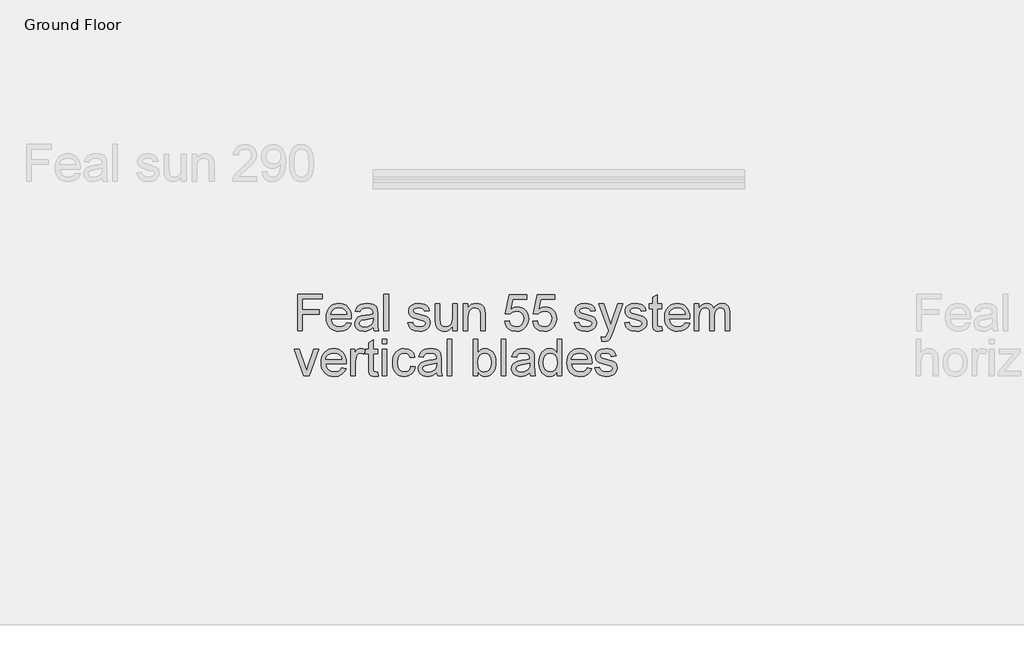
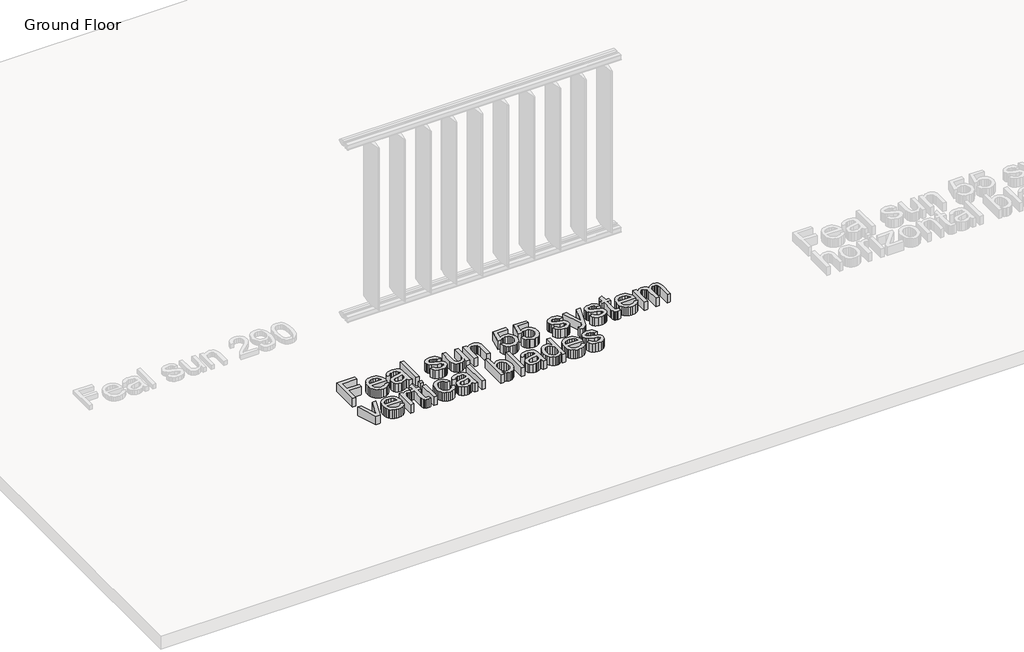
# One storey, part 2 of 3: 1 proxy.
"""IFC4 building model written with IfcOpenShell, lengths in millimetres."""

import ifcopenshell
import ifcopenshell.guid

model = None  # the IFC model being written
_history = None  # IfcOwnerHistory: only IFC2X3 demands one
_inside = {}  # id of a spatial element -> (the spatial element, [elements in it])
_under = {}  # id of a project, library or spatial element -> (it, [spatial elements below it])
_declared = {}  # id of a project -> (the project, [libraries it declares])
_typed = {}  # id of a type object -> (the type object, [elements of that type])
_made_of = {}  # id of a material, layer set ... -> (it, [elements and type objects made of it])


def new_model(schema):
    """Start an empty IFC model of exactly this schema.

    Asked for "IFC4X3", IfcOpenShell would pick the latest addendum, in which some entities
    have other attributes; the version numbers below select the first issue.
    IFC2X3 requires an IfcOwnerHistory on every rooted entity: one is made here for all.
    """
    global model, _history
    if schema == "IFC4X3":
        model = ifcopenshell.file(schema_version=(4, 3, 0, 0))
    else:
        model = ifcopenshell.file(schema=schema)
    _inside.clear()
    _under.clear()
    _declared.clear()
    _typed.clear()
    _made_of.clear()
    _history = None
    if model.schema == "IFC2X3":
        org = make("IfcOrganization", Name="unknown")
        user = make(
            "IfcPersonAndOrganization",
            ThePerson=make("IfcPerson", FamilyName="unknown"),
            TheOrganization=org,
        )
        app = make(
            "IfcApplication",
            ApplicationDeveloper=org,
            Version="unknown",
            ApplicationFullName="unknown",
            ApplicationIdentifier="unknown",
        )
        _history = make(
            "IfcOwnerHistory",
            OwningUser=user,
            OwningApplication=app,
            ChangeAction="ADDED",
            CreationDate=0,
        )
    return model


def make(cls, **values):
    """One entity of the class cls with the attributes given. An attribute that is None is left unset."""
    return model.create_entity(
        cls, **{name: value for name, value in values.items() if value is not None}
    )


def rooted(cls, **values):
    """An entity with a GlobalId (a new one), such as an element, a storey or a relation."""
    return make(cls, GlobalId=ifcopenshell.guid.new(), OwnerHistory=_history, **values)


def si_unit(unit_type, name, prefix=None):
    """IfcSIUnit, for example si_unit("LENGTHUNIT", "METRE", prefix="MILLI")."""
    return make("IfcSIUnit", UnitType=unit_type, Prefix=prefix, Name=name)


def assignment(units):
    """IfcUnitAssignment: the units of a project."""
    return None if units is None else make("IfcUnitAssignment", Units=units)


def point(xyz):
    """IfcCartesianPoint."""
    return None if xyz is None else make("IfcCartesianPoint", Coordinates=xyz)


def direction(xyz):
    """IfcDirection."""
    return None if xyz is None else make("IfcDirection", DirectionRatios=xyz)


def frame(location, z_axis=None, x_axis=None):
    """IfcAxis2Placement3D, a coordinate frame: its origin and axes. An axis left out is left unset."""
    return make(
        "IfcAxis2Placement3D",
        Location=point(location),
        Axis=direction(z_axis),
        RefDirection=direction(x_axis),
    )


def origin():
    """The frame at (0, 0, 0) with its axes left unset."""
    return frame((0.0, 0.0, 0.0))


def origin_with_axes():
    """The frame at (0, 0, 0) with the z axis (0, 0, 1) and the x axis (1, 0, 0) written out."""
    return frame((0.0, 0.0, 0.0), z_axis=(0.0, 0.0, 1.0), x_axis=(1.0, 0.0, 0.0))


def place(relative_to, where):
    """IfcLocalPlacement: puts the frame where relative to a parent placement (None: the world)."""
    return make(
        "IfcLocalPlacement", PlacementRelTo=relative_to, RelativePlacement=where
    )


def context(
    kind, dimensions, precision=None, world=None, true_north=None, identifier=None
):
    """IfcGeometricRepresentationContext, for example the 3D "Model" context."""
    return make(
        "IfcGeometricRepresentationContext",
        ContextIdentifier=identifier,
        ContextType=kind,
        CoordinateSpaceDimension=dimensions,
        Precision=precision,
        WorldCoordinateSystem=world,
        TrueNorth=true_north,
    )


def project(units=None, contexts=None):
    """IfcProject with its units and contexts."""
    return rooted(
        "IfcProject",
        Name="project",
        RepresentationContexts=contexts,
        UnitsInContext=assignment(units),
    )


def spatial(cls, under=None, at=None, **own):
    """A site, building, storey or space (cls), placed at a placement, below another one or the project."""
    s = rooted(cls, ObjectPlacement=at, **own)
    if under is not None:
        _under.setdefault(under.id(), (under, []))[1].append(s)
    return s


def polyline(points):
    """IfcPolyline through the points."""
    return make("IfcPolyline", Points=[point(p) for p in points])


def outline(outer, holes=None, kind="AREA"):
    """IfcArbitraryClosedProfileDef: a profile drawn as a closed curve; with holes, ...WithVoids."""
    if holes is None:
        return make("IfcArbitraryClosedProfileDef", ProfileType=kind, OuterCurve=outer)
    return make(
        "IfcArbitraryProfileDefWithVoids",
        ProfileType=kind,
        OuterCurve=outer,
        InnerCurves=holes,
    )


def extrude(swept, where, along, depth):
    """IfcExtrudedAreaSolid: the profile swept, set in the frame where, extruded along a direction by depth."""
    return make(
        "IfcExtrudedAreaSolid",
        SweptArea=swept,
        Position=where,
        ExtrudedDirection=direction(along),
        Depth=depth,
    )


def shape(context_of_items, identifier, shape_type, items):
    """IfcShapeRepresentation: the items that make up one representation, for example the "Body"."""
    return make(
        "IfcShapeRepresentation",
        ContextOfItems=context_of_items,
        RepresentationIdentifier=identifier,
        RepresentationType=shape_type,
        Items=items,
    )


def made_of(thing, what):
    """Note that an element or type object is made of a material, layer set ...; save() writes the relation."""
    if what is not None:
        _made_of.setdefault(what.id(), (what, []))[1].append(thing)
    return thing


def element(
    cls,
    number,
    at=None,
    inside=None,
    cuts=None,
    type_object=None,
    material=None,
    context=None,
    identifier="Body",
    shape_type=None,
    held_by="IfcProductDefinitionShape",
    body=None,
    shapes=None,
    **own,
):
    """One element of the class cls, such as IfcWall. Its Tag is "e" and its number.

    at: its placement. inside: the storey or other place that contains it. cuts: it is an
    opening in that element (IfcRelVoidsElement). A single representation is given by context,
    identifier, shape_type and body (its items); several are given by shapes. held_by: the class
    of the entity that holds the representations. save() writes the other relations.
    """
    e = rooted(cls, Tag="e%d" % number, ObjectPlacement=at, **own)
    if body is not None:
        shapes = [shape(context, identifier, shape_type, body)]
    if shapes is not None:
        e.Representation = make(held_by, Representations=shapes)
    if inside is not None:
        _inside.setdefault(inside.id(), (inside, []))[1].append(e)
    if cuts is not None:
        rooted(
            "IfcRelVoidsElement", RelatingBuildingElement=cuts, RelatedOpeningElement=e
        )
    if type_object is not None:
        _typed.setdefault(type_object.id(), (type_object, []))[1].append(e)
    return made_of(e, material)


def aggregate(whole, parts):
    """IfcRelAggregates: a whole, such as a stair, and the parts it consists of."""
    return rooted("IfcRelAggregates", RelatingObject=whole, RelatedObjects=parts)


def save(model, path):
    """Write the relations noted so far, then the file.

    IfcRelAggregates (storeys below a building ...), IfcRelContainedInSpatialStructure (elements
    in a storey), IfcRelDefinesByType, IfcRelAssociatesMaterial and IfcRelDeclares: one each for
    every whole, place, type object, material and project.
    """
    for whole, parts in _under.values():
        aggregate(whole, parts)
    for where, things in _inside.values():
        rooted(
            "IfcRelContainedInSpatialStructure",
            RelatedElements=things,
            RelatingStructure=where,
        )
    for kind, things in _typed.values():
        rooted("IfcRelDefinesByType", RelatedObjects=things, RelatingType=kind)
    for what, things in _made_of.values():
        rooted("IfcRelAssociatesMaterial", RelatedObjects=things, RelatingMaterial=what)
    for by, libraries in _declared.values():
        rooted("IfcRelDeclares", RelatingContext=by, RelatedDefinitions=libraries)
    model.write(path)


model = new_model("IFC4")

# Units and contexts
model_context = context("Model", 3, world=origin())
ifc_project = project(units=[si_unit("LENGTHUNIT", "METRE", prefix="MILLI")], contexts=[model_context])

# Site, building, storey
site = spatial("IfcSite", under=ifc_project)
building = spatial("IfcBuilding", under=site)
storey = spatial("IfcBuildingStorey", under=building, Name="Ground Floor", Elevation=0.0)

# Proxy
placement = place(None, origin())
element("IfcBuildingElementProxy", 1, Name="600mm Arial", ObjectType="600mm Arial", at=placement, inside=storey, context=model_context, shape_type="SweptSolid", body=[
    extrude(outline(polyline([(199.9729816, -8768.2185597), (199.9729816, -8472.8339444), (398.43452, -8472.8339444), (398.43452, -8509.7570213), (236.8960585, -8509.7570213), (236.8960585, -8597.449329), (375.357597, -8597.449329), (375.357597, -8634.3724059), (236.8960585, -8634.3724059), (236.8960585, -8768.2185597), (199.9729816, -8768.2185597)])), origin_with_axes(), (0.0, 0.0, 1.0), 100.0),
    extrude(outline(polyline([(596.4633662, -8703.6031751), (632.6652893, -8708.2185597), (619.6214191, -8735.496204), (598.8071162, -8755.886829), (570.6911306, -8768.5971655), (535.7422123, -8772.8339444), (512.8320561, -8771.0062701), (492.418895, -8765.5232472), (474.5027292, -8756.3848759), (459.0835585, -8743.5911559), (446.6842196, -8727.4981571), (437.8275489, -8708.4619492), (432.5135465, -8686.4825321), (430.7422123, -8661.5599059), (432.5315753, -8635.7921775), (437.8996643, -8613.0803386), (446.8464792, -8593.4243891), (459.37202, -8576.824329), (474.7506258, -8563.636228), (492.2566354, -8554.2161559), (511.8900489, -8548.5641126), (533.6508662, -8546.6800982), (554.7108121, -8548.5596054), (573.7560345, -8554.1981271), (590.7865333, -8563.5956631), (605.8023085, -8576.7522136), (618.0596703, -8593.316216), (626.8149287, -8612.9361078), (632.0680837, -8635.6118891), (633.8191354, -8661.3435597), (633.6027893, -8671.2954828), (467.6652893, -8671.2954828), (474.0565152, -8698.933704), (488.90327, -8719.2522136), (510.3305537, -8731.746204), (536.4633662, -8735.9108674), (556.1148085, -8733.9817809), (572.6652893, -8728.1945213), (586.1148085, -8718.1885117), (596.4633662, -8703.6031751)]), holes=[polyline([(467.6652893, -8634.3724059), (596.8960585, -8634.3724059), (591.9020681, -8614.8651944), (582.1124047, -8600.9108674), (560.5859623, -8587.9300982), (533.5066354, -8583.6031751), (508.6178133, -8587.0556992), (488.0378854, -8597.4132713), (473.731996, -8613.558103), (467.6652893, -8634.3724059)])]), origin_with_axes(), (0.0, 0.0, 1.0), 100.0),
    extrude(outline(polyline([(809.2037508, -8740.5262521), (791.5625248, -8755.652454), (773.3984623, -8765.5502905), (754.2968998, -8771.0130309), (733.8431739, -8772.8339444), (702.9868037, -8768.4529347), (680.2253854, -8755.3099059), (666.1899287, -8735.3519732), (661.5114431, -8710.5262521), (663.27827, -8695.2197617), (668.5787508, -8681.3195213), (676.7548325, -8669.4204828), (687.1484623, -8660.1175982), (713.0018277, -8648.0022136), (744.9489431, -8642.449329), (782.701347, -8636.6079828), (808.9874047, -8629.7570213), (809.2037508, -8621.5358674), (806.6616835, -8605.0575021), (799.0354816, -8594.2762521), (781.9801931, -8586.2714444), (758.2181739, -8583.6031751), (736.2229816, -8585.3790165), (720.8624047, -8590.7065405), (710.387645, -8600.5593049), (703.0499047, -8615.9108674), (666.1268277, -8611.2954828), (672.5360825, -8591.1031751), (682.1003854, -8575.2377905), (695.7121643, -8563.1043771), (714.263847, -8554.1079828), (736.9531498, -8548.5370694), (762.9777893, -8546.6800982), (787.9387268, -8548.3207232), (807.7253854, -8553.2425982), (822.6442556, -8560.6434396), (833.0018277, -8569.7209636), (839.8708181, -8580.9439203), (844.3239431, -8594.7810597), (846.1268277, -8627.0887521), (846.1268277, -8673.0262521), (848.0018277, -8737.1728867), (855.357597, -8768.2185597), (818.43452, -8768.2185597), (809.2037508, -8740.5262521)]), holes=[polyline([(809.2037508, -8666.6800982), (749.6364431, -8678.0022136), (717.8696162, -8683.9877905), (703.482597, -8693.7233674), (698.43452, -8707.9300982), (701.1839191, -8718.9096655), (709.4321162, -8727.9060597), (722.9988229, -8733.9096655), (741.7037508, -8735.9108674), (761.5354816, -8733.7023338), (779.05952, -8727.0767328), (793.2662508, -8717.3141126), (803.1460585, -8705.6945213), (807.5270681, -8693.7233674), (808.9874047, -8677.136829), (809.2037508, -8666.6800982)])]), origin_with_axes(), (0.0, 0.0, 1.0), 100.0),
    extrude(outline(polyline([(896.8960585, -8768.2185597), (896.8960585, -8472.8339444), (933.8191354, -8472.8339444), (933.8191354, -8768.2185597), (896.8960585, -8768.2185597)])), origin_with_axes(), (0.0, 0.0, 1.0), 100.0),
    extrude(outline(polyline([(1090.7422123, -8703.6031751), (1127.6652893, -8698.9877905), (1133.4886066, -8714.7810597), (1144.7566354, -8726.3916367), (1161.5414912, -8733.5310597), (1183.9152893, -8735.9108674), (1206.0186547, -8733.7293771), (1221.55952, -8727.1849059), (1230.7542316, -8717.7017328), (1233.8191354, -8706.7041367), (1230.7362027, -8697.293079), (1221.4874047, -8690.1175982), (1183.482597, -8679.5887521), (1127.8816354, -8661.5238482), (1113.810121, -8652.4463242), (1103.6148085, -8640.4300982), (1097.4218998, -8626.2413963), (1095.357597, -8610.6464444), (1097.0162508, -8596.3405549), (1101.9922123, -8583.1344251), (1109.8347604, -8571.5508915), (1120.0931739, -8562.1127905), (1143.5667316, -8551.1873097), (1175.3335585, -8546.6800982), (1199.3660104, -8548.4919972), (1220.2614431, -8553.9276944), (1237.0643277, -8562.4553386), (1248.8191354, -8573.543079), (1256.607597, -8588.011228), (1261.5114431, -8606.6800982), (1224.5883662, -8611.2954828), (1219.9279095, -8599.6758915), (1210.7061547, -8590.9228867), (1196.8329575, -8585.433103), (1178.2181739, -8583.6031751), (1157.0162508, -8585.3519732), (1142.8816354, -8590.5983674), (1134.9309143, -8598.1704828), (1132.2806739, -8606.8964444), (1136.6797123, -8617.6416367), (1150.4537508, -8625.7906751), (1182.2566354, -8633.6512521), (1236.451347, -8651.0310597), (1250.7662508, -8659.3423578), (1261.6196162, -8670.7185597), (1268.4615633, -8685.1957232), (1270.7422123, -8702.8099059), (1268.0649287, -8721.0190405), (1260.0330777, -8738.1464444), (1246.9531498, -8752.8489684), (1229.1316354, -8763.7834636), (1207.6051931, -8770.5713242), (1183.4104816, -8772.8339444), (1146.1809143, -8768.4709636), (1119.0114431, -8755.3820213), (1100.8744239, -8733.7113482), (1090.7422123, -8703.6031751)])), origin_with_axes(), (0.0, 0.0, 1.0), 100.0),
    extrude(outline(polyline([(1450.7422123, -8768.2185597), (1450.7422123, -8730.9349059), (1437.3828373, -8749.2657352), (1421.8239431, -8762.3591847), (1404.0655297, -8770.2152545), (1384.107597, -8772.8339444), (1366.1238229, -8770.9950021), (1349.3840393, -8765.4781751), (1335.3395681, -8757.1849059), (1325.4417316, -8747.0166367), (1314.4441354, -8719.8291367), (1312.2806739, -8685.5022136), (1312.2806739, -8551.2954828), (1349.2037508, -8551.2954828), (1349.2037508, -8668.1224059), (1351.4393277, -8705.7666367), (1356.8209383, -8718.323728), (1366.0426931, -8727.8700021), (1378.4916114, -8733.9006511), (1393.5547123, -8735.9108674), (1409.4831979, -8733.855579), (1424.3840393, -8727.6897136), (1436.6706979, -8717.9811799), (1444.7566354, -8705.2978867), (1449.2458181, -8687.9270934), (1450.7422123, -8664.1560597), (1450.7422123, -8551.2954828), (1487.6652893, -8551.2954828), (1487.6652893, -8768.2185597), (1450.7422123, -8768.2185597)])), origin_with_axes(), (0.0, 0.0, 1.0), 100.0),
    extrude(outline(polyline([(1538.43452, -8768.2185597), (1538.43452, -8551.2954828), (1575.357597, -8551.2954828), (1575.357597, -8581.5839444), (1588.185121, -8566.3135117), (1603.59077, -8555.4060597), (1621.5745441, -8548.8615886), (1642.1364431, -8546.6800982), (1660.3365633, -8548.4379107), (1677.0042316, -8553.7113482), (1690.904472, -8561.8423578), (1700.8023085, -8572.1728867), (1711.87202, -8599.324329), (1713.8191354, -8635.0214444), (1713.8191354, -8768.2185597), (1676.8960585, -8768.2185597), (1676.8960585, -8639.9974059), (1672.6412508, -8607.3291367), (1666.7548325, -8597.6025742), (1657.6051931, -8590.0575021), (1645.8774287, -8585.2167569), (1632.2566354, -8583.6031751), (1610.6310345, -8587.2269732), (1592.1965393, -8598.0983674), (1584.829502, -8606.973067), (1579.5673325, -8619.1019732), (1575.357597, -8653.1224059), (1575.357597, -8768.2185597), (1538.43452, -8768.2185597)])), origin_with_axes(), (0.0, 0.0, 1.0), 100.0),
    extrude(outline(polyline([(1870.7422123, -8689.7570213), (1907.6652893, -8685.1416367), (1914.4441354, -8707.308103), (1926.2710585, -8723.1825021), (1943.091972, -8732.7287761), (1964.8527893, -8735.9108674), (1991.3191354, -8731.4847857), (2011.1508662, -8718.2065405), (2023.5366835, -8697.6085838), (2027.6652893, -8671.2233674), (2023.7981018, -8646.3796174), (2012.1965393, -8627.3772136), (1992.7704575, -8615.3159155), (1965.4297123, -8611.2954828), (1947.5180537, -8612.9000501), (1933.013847, -8617.7137521), (1912.2806739, -8634.3724059), (1875.357597, -8629.7570213), (1907.6652893, -8477.449329), (2050.7422123, -8477.449329), (2050.7422123, -8514.3724059), (1937.5210585, -8514.3724059), (1921.7277893, -8595.7185597), (1948.1039912, -8579.7089444), (1975.7422123, -8574.3724059), (1993.7237328, -8576.0265525), (2010.2404095, -8580.9889924), (2025.2922424, -8589.2597256), (2038.8792316, -8600.8387521), (2050.126978, -8615.0184396), (2058.1610825, -8631.0911559), (2062.9815453, -8649.0569011), (2064.5883662, -8668.9156751), (2058.8011066, -8705.8387521), (2051.5670321, -8722.2990886), (2041.4393277, -8737.4252905), (2026.0967797, -8752.9165766), (2008.1941354, -8763.9817809), (1987.731395, -8770.6209035), (1964.7085585, -8772.8339444), (1928.4435345, -8767.1458434), (1913.0761967, -8760.0357172), (1899.5523085, -8750.0815405), (1888.3000549, -8737.7791066), (1879.747621, -8723.6242088), (1870.7422123, -8689.7570213)])), origin_with_axes(), (0.0, 0.0, 1.0), 100.0),
    extrude(outline(polyline([(2096.8960585, -8689.7570213), (2133.8191354, -8685.1416367), (2140.5979816, -8707.308103), (2152.4249047, -8723.1825021), (2169.2458181, -8732.7287761), (2191.0066354, -8735.9108674), (2217.4729816, -8731.4847857), (2237.3047123, -8718.2065405), (2249.6905297, -8697.6085838), (2253.8191354, -8671.2233674), (2249.9519479, -8646.3796174), (2238.3503854, -8627.3772136), (2218.9243037, -8615.3159155), (2191.5835585, -8611.2954828), (2173.6718998, -8612.9000501), (2159.1676931, -8617.7137521), (2138.43452, -8634.3724059), (2101.5114431, -8629.7570213), (2133.8191354, -8477.449329), (2276.8960585, -8477.449329), (2276.8960585, -8514.3724059), (2163.6749047, -8514.3724059), (2147.8816354, -8595.7185597), (2174.2578373, -8579.7089444), (2201.8960585, -8574.3724059), (2219.8775789, -8576.0265525), (2236.3942556, -8580.9889924), (2251.4460886, -8589.2597256), (2265.0330777, -8600.8387521), (2276.2808241, -8615.0184396), (2284.3149287, -8631.0911559), (2289.1353914, -8649.0569011), (2290.7422123, -8668.9156751), (2284.9549527, -8705.8387521), (2277.7208782, -8722.2990886), (2267.5931739, -8737.4252905), (2252.2506258, -8752.9165766), (2234.3479816, -8763.9817809), (2213.8852412, -8770.6209035), (2190.8624047, -8772.8339444), (2154.5973806, -8767.1458434), (2139.2300429, -8760.0357172), (2125.7061547, -8750.0815405), (2114.4539011, -8737.7791066), (2105.9014672, -8723.6242088), (2096.8960585, -8689.7570213)])), origin_with_axes(), (0.0, 0.0, 1.0), 100.0),
    extrude(outline(polyline([(2433.8191354, -8703.6031751), (2470.7422123, -8698.9877905), (2476.5655297, -8714.7810597), (2487.8335585, -8726.3916367), (2504.6184143, -8733.5310597), (2526.9922123, -8735.9108674), (2549.0955777, -8733.7293771), (2564.6364431, -8727.1849059), (2573.8311547, -8717.7017328), (2576.8960585, -8706.7041367), (2573.8131258, -8697.293079), (2564.5643277, -8690.1175982), (2526.55952, -8679.5887521), (2470.9585585, -8661.5238482), (2456.8870441, -8652.4463242), (2446.6917316, -8640.4300982), (2440.4988229, -8626.2413963), (2438.43452, -8610.6464444), (2440.0931739, -8596.3405549), (2445.0691354, -8583.1344251), (2452.9116835, -8571.5508915), (2463.170097, -8562.1127905), (2486.6436547, -8551.1873097), (2518.4104816, -8546.6800982), (2542.4429335, -8548.4919972), (2563.3383662, -8553.9276944), (2580.1412508, -8562.4553386), (2591.8960585, -8573.543079), (2599.68452, -8588.011228), (2604.5883662, -8606.6800982), (2567.6652893, -8611.2954828), (2563.0048325, -8599.6758915), (2553.7830777, -8590.9228867), (2539.9098806, -8585.433103), (2521.295097, -8583.6031751), (2500.0931739, -8585.3519732), (2485.9585585, -8590.5983674), (2478.0078373, -8598.1704828), (2475.357597, -8606.8964444), (2479.7566354, -8617.6416367), (2493.5306739, -8625.7906751), (2525.3335585, -8633.6512521), (2579.52827, -8651.0310597), (2593.8431739, -8659.3423578), (2604.6965393, -8670.7185597), (2611.5384864, -8685.1957232), (2613.8191354, -8702.8099059), (2611.1418518, -8721.0190405), (2603.1100008, -8738.1464444), (2590.0300729, -8752.8489684), (2572.2085585, -8763.7834636), (2550.6821162, -8770.5713242), (2526.4874047, -8772.8339444), (2489.2578373, -8768.4709636), (2462.0883662, -8755.3820213), (2443.951347, -8733.7113482), (2433.8191354, -8703.6031751)])), origin_with_axes(), (0.0, 0.0, 1.0), 100.0),
    extrude(outline(polyline([(2655.357597, -8851.2954828), (2650.7422123, -8815.7425982), (2669.4922123, -8818.9877905), (2687.0162508, -8814.9132713), (2697.7614431, -8803.5550982), (2707.857597, -8776.3675982), (2710.7422123, -8767.4252905), (2632.2806739, -8551.2954828), (2671.2229816, -8551.2954828), (2712.8335585, -8671.7281751), (2727.3287508, -8719.9012521), (2741.8239431, -8677.3531751), (2784.5883662, -8551.2954828), (2823.2422123, -8551.2954828), (2747.7374047, -8773.4108674), (2728.12202, -8821.5839444), (2718.0799527, -8836.9625501), (2706.7037508, -8847.6175982), (2693.4886066, -8853.8375501), (2677.9297123, -8855.9108674), (2655.357597, -8851.2954828)])), origin_with_axes(), (0.0, 0.0, 1.0), 100.0),
    extrude(outline(polyline([(2839.9729816, -8703.6031751), (2876.8960585, -8698.9877905), (2882.7193758, -8714.7810597), (2893.9874047, -8726.3916367), (2910.7722604, -8733.5310597), (2933.1460585, -8735.9108674), (2955.2494239, -8733.7293771), (2970.7902893, -8727.1849059), (2979.9850008, -8717.7017328), (2983.0499047, -8706.7041367), (2979.966972, -8697.293079), (2970.7181739, -8690.1175982), (2932.7133662, -8679.5887521), (2877.1124047, -8661.5238482), (2863.0408902, -8652.4463242), (2852.8455777, -8640.4300982), (2846.6526691, -8626.2413963), (2844.5883662, -8610.6464444), (2846.24702, -8596.3405549), (2851.2229816, -8583.1344251), (2859.0655297, -8571.5508915), (2869.3239431, -8562.1127905), (2892.7975008, -8551.1873097), (2924.5643277, -8546.6800982), (2948.5967797, -8548.4919972), (2969.4922123, -8553.9276944), (2986.295097, -8562.4553386), (2998.0499047, -8573.543079), (3005.8383662, -8588.011228), (3010.7422123, -8606.6800982), (2973.8191354, -8611.2954828), (2969.1586787, -8599.6758915), (2959.9369239, -8590.9228867), (2946.0637268, -8585.433103), (2927.4489431, -8583.6031751), (2906.24702, -8585.3519732), (2892.1124047, -8590.5983674), (2884.1616835, -8598.1704828), (2881.5114431, -8606.8964444), (2885.9104816, -8617.6416367), (2899.68452, -8625.7906751), (2931.4874047, -8633.6512521), (2985.6821162, -8651.0310597), (2999.99702, -8659.3423578), (3010.8503854, -8670.7185597), (3017.6923325, -8685.1957232), (3019.9729816, -8702.8099059), (3017.2956979, -8721.0190405), (3009.263847, -8738.1464444), (2996.1839191, -8752.8489684), (2978.3624047, -8763.7834636), (2956.8359623, -8770.5713242), (2932.6412508, -8772.8339444), (2895.4116835, -8768.4709636), (2868.2422123, -8755.3820213), (2850.1051931, -8733.7113482), (2839.9729816, -8703.6031751)])), origin_with_axes(), (0.0, 0.0, 1.0), 100.0),
    extrude(outline(polyline([(3139.9729816, -8737.4252905), (3144.5883662, -8769.3002905), (3116.9681739, -8772.8339444), (3099.2458181, -8771.3014924), (3086.0306739, -8766.7041367), (3076.6917316, -8759.6188001), (3070.5979816, -8750.6224059), (3067.2446162, -8735.1716847), (3066.1268277, -8708.7233674), (3066.1268277, -8588.2185597), (3038.43452, -8588.2185597), (3038.43452, -8551.2954828), (3066.1268277, -8551.2954828), (3066.1268277, -8498.5791367), (3103.0499047, -8476.8724059), (3103.0499047, -8551.2954828), (3139.9729816, -8551.2954828), (3139.9729816, -8588.2185597), (3103.0499047, -8588.2185597), (3103.0499047, -8707.6416367), (3104.99702, -8726.6800982), (3111.3071162, -8733.4228867), (3123.8912508, -8735.9108674), (3139.9729816, -8737.4252905)])), origin_with_axes(), (0.0, 0.0, 1.0), 100.0),
    extrude(outline(polyline([(3328.7710585, -8703.6031751), (3364.9729816, -8708.2185597), (3351.9291114, -8735.496204), (3331.1148085, -8755.886829), (3302.9988229, -8768.5971655), (3268.0499047, -8772.8339444), (3245.1397484, -8771.0062701), (3224.7265873, -8765.5232472), (3206.8104215, -8756.3848759), (3191.3912508, -8743.5911559), (3178.9919119, -8727.4981571), (3170.1352412, -8708.4619492), (3164.8212388, -8686.4825321), (3163.0499047, -8661.5599059), (3164.8392676, -8635.7921775), (3170.2073566, -8613.0803386), (3179.1541715, -8593.4243891), (3191.6797123, -8576.824329), (3207.0583181, -8563.636228), (3224.5643277, -8554.2161559), (3244.1977412, -8548.5641126), (3265.9585585, -8546.6800982), (3287.0185044, -8548.5596054), (3306.0637268, -8554.1981271), (3323.0942256, -8563.5956631), (3338.1100008, -8576.7522136), (3350.3673626, -8593.316216), (3359.122621, -8612.9361078), (3364.3757761, -8635.6118891), (3366.1268277, -8661.3435597), (3365.9104816, -8671.2954828), (3199.9729816, -8671.2954828), (3206.3642075, -8698.933704), (3221.2109623, -8719.2522136), (3242.638246, -8731.746204), (3268.7710585, -8735.9108674), (3288.4225008, -8733.9817809), (3304.9729816, -8728.1945213), (3318.4225008, -8718.1885117), (3328.7710585, -8703.6031751)]), holes=[polyline([(3199.9729816, -8634.3724059), (3329.2037508, -8634.3724059), (3324.2097604, -8614.8651944), (3314.420097, -8600.9108674), (3292.8936547, -8587.9300982), (3265.8143277, -8583.6031751), (3240.9255056, -8587.0556992), (3220.3455777, -8597.4132713), (3206.0396883, -8613.558103), (3199.9729816, -8634.3724059)])]), origin_with_axes(), (0.0, 0.0, 1.0), 100.0),
    extrude(outline(polyline([(3403.0499047, -8768.2185597), (3403.0499047, -8551.2954828), (3439.9729816, -8551.2954828), (3439.9729816, -8586.9925982), (3451.0787508, -8570.5953626), (3465.357597, -8557.7498097), (3482.3227412, -8549.4475261), (3501.4874047, -8546.6800982), (3522.0222604, -8549.5016126), (3538.482597, -8557.9661559), (3550.77827, -8571.5148338), (3558.8191354, -8589.5887521), (3572.2776691, -8570.816216), (3587.6292316, -8557.4072617), (3604.8738229, -8549.3618891), (3624.0114431, -8546.6800982), (3651.7668518, -8551.1422376), (3672.2926931, -8564.5286559), (3684.9759864, -8587.1999299), (3689.2037508, -8619.5166367), (3689.2037508, -8768.2185597), (3652.2806739, -8768.2185597), (3652.2806739, -8635.3820213), (3648.8551931, -8604.5526944), (3644.0414912, -8596.0520934), (3636.451347, -8589.3724059), (3626.6887268, -8585.0454828), (3615.357597, -8583.6031751), (3595.3545922, -8587.2990886), (3579.0475008, -8598.386829), (3568.2031498, -8617.6236078), (3564.5883662, -8645.7666367), (3564.5883662, -8768.2185597), (3527.6652893, -8768.2185597), (3527.6652893, -8631.2714444), (3525.528871, -8610.3940405), (3519.1196162, -8595.5022136), (3507.8425729, -8586.5779347), (3491.1027893, -8583.6031751), (3476.8780297, -8585.5863482), (3463.7710585, -8591.5358674), (3452.9537508, -8601.3075021), (3445.5979816, -8614.7570213), (3441.3792316, -8633.4168771), (3439.9729816, -8658.8195213), (3439.9729816, -8768.2185597), (3403.0499047, -8768.2185597)])), origin_with_axes(), (0.0, 0.0, 1.0), 100.0),
    extrude(outline(polyline([(248.5787508, -9132.8339444), (172.2806739, -8915.9108674), (211.3672123, -8915.9108674), (257.5931739, -9045.8627905), (271.5114431, -9089.5647136), (285.1412508, -9048.3147136), (331.6556739, -8915.9108674), (370.7422123, -8915.9108674), (295.3816354, -9132.8339444), (248.5787508, -9132.8339444)])), origin_with_axes(), (0.0, 0.0, 1.0), 100.0),
    extrude(outline(polyline([(554.9249047, -9068.2185597), (591.1268277, -9072.8339444), (578.0829575, -9100.1115886), (557.2686547, -9120.5022136), (529.1526691, -9133.2125501), (494.2037508, -9137.449329), (471.2935946, -9135.6216547), (450.8804335, -9130.1386319), (432.9642676, -9121.0002605), (417.545097, -9108.2065405), (405.145758, -9092.1135417), (396.2890873, -9073.0773338), (390.9750849, -9051.0979167), (389.2037508, -9026.1752905), (390.9931138, -9000.4075622), (396.3612027, -8977.6957232), (405.3080176, -8958.0397737), (417.8335585, -8941.4397136), (433.2121643, -8928.2516126), (450.7181739, -8918.8315405), (470.3515873, -8913.1794972), (492.1124047, -8911.2954828), (513.1723506, -8913.17499), (532.2175729, -8918.8135117), (549.2480717, -8928.2110477), (564.263847, -8941.3675982), (576.5212087, -8957.9316006), (585.2764672, -8977.5514924), (590.5296222, -9000.2272737), (592.2806739, -9025.9589444), (592.0643277, -9035.9108674), (426.1268277, -9035.9108674), (432.5180537, -9063.5490886), (447.3648085, -9083.8675982), (468.7920922, -9096.3615886), (494.9249047, -9100.5262521), (514.576347, -9098.5971655), (531.1268277, -9092.8099059), (544.576347, -9082.8038963), (554.9249047, -9068.2185597)]), holes=[polyline([(426.1268277, -8998.9877905), (555.357597, -8998.9877905), (550.3636066, -8979.480579), (540.5739431, -8965.5262521), (519.0475008, -8952.5454828), (491.9681739, -8948.2185597), (467.0793518, -8951.6710838), (446.4994239, -8962.0286559), (432.1935345, -8978.1734876), (426.1268277, -8998.9877905)])]), origin_with_axes(), (0.0, 0.0, 1.0), 100.0),
    extrude(outline(polyline([(629.2037508, -9132.8339444), (629.2037508, -8915.9108674), (661.5114431, -8915.9108674), (661.5114431, -8948.0022136), (673.4465393, -8929.3964444), (684.4441354, -8918.4349059), (695.4777893, -8913.0803386), (707.5210585, -8911.2954828), (725.9104816, -8914.1440405), (744.5883662, -8922.6897136), (732.2566354, -8955.7906751), (719.2758662, -8950.1115886), (706.295097, -8948.2185597), (695.2704575, -8950.0394732), (685.4176931, -8955.5022136), (677.4579575, -8964.1921174), (672.1124047, -8975.6945213), (667.623222, -8996.3195213), (666.1268277, -9018.8195213), (666.1268277, -9132.8339444), (629.2037508, -9132.8339444)])), origin_with_axes(), (0.0, 0.0, 1.0), 100.0),
    extrude(outline(polyline([(846.1268277, -9102.0406751), (850.7422123, -9133.9156751), (823.12202, -9137.449329), (805.3996643, -9135.9168771), (792.18452, -9131.3195213), (782.8455777, -9124.2341847), (776.7518277, -9115.2377905), (773.3984623, -9099.7870694), (772.2806739, -9073.3387521), (772.2806739, -8952.8339444), (744.5883662, -8952.8339444), (744.5883662, -8915.9108674), (772.2806739, -8915.9108674), (772.2806739, -8863.1945213), (809.2037508, -8841.4877905), (809.2037508, -8915.9108674), (846.1268277, -8915.9108674), (846.1268277, -8952.8339444), (809.2037508, -8952.8339444), (809.2037508, -9072.2570213), (811.1508662, -9091.2954828), (817.4609623, -9098.0382713), (830.045097, -9100.5262521), (846.1268277, -9102.0406751)])), origin_with_axes(), (0.0, 0.0, 1.0), 100.0),
    extrude(outline(polyline([(883.0499047, -8874.3724059), (883.0499047, -8837.449329), (919.9729816, -8837.449329), (919.9729816, -8874.3724059), (883.0499047, -8874.3724059)])), origin_with_axes(), (0.0, 0.0, 1.0), 100.0),
    extrude(outline(polyline([(883.0499047, -9132.8339444), (883.0499047, -8915.9108674), (919.9729816, -8915.9108674), (919.9729816, -9132.8339444), (883.0499047, -9132.8339444)])), origin_with_axes(), (0.0, 0.0, 1.0), 100.0),
    extrude(outline(polyline([(1113.8191354, -9054.3724059), (1150.7422123, -9058.9877905), (1140.4477412, -9091.8273338), (1121.1027893, -9116.6440405), (1094.52827, -9132.2480069), (1062.545097, -9137.449329), (1041.8367136, -9135.6351763), (1023.2692556, -9130.1927184), (1006.8427232, -9121.1219552), (992.5571162, -9108.4228867), (980.993865, -9092.3343951), (972.7343998, -9073.0953626), (967.7787208, -9050.7057893), (966.1268277, -9025.1656751), (968.9483422, -8992.308103), (977.4128854, -8963.8315405), (991.6556739, -8940.8357472), (1011.8119239, -8924.4204828), (1035.9255056, -8914.5767328), (1062.0402893, -8911.2954828), (1093.2392075, -8915.8026944), (1118.1821162, -8929.324329), (1136.075746, -8951.1392328), (1146.1268277, -8980.5262521), (1109.2037508, -8985.1416367), (1102.5060345, -8969.0328626), (1092.076347, -8957.4853867), (1078.4916114, -8950.5352665), (1062.3287508, -8948.2185597), (1038.4675729, -8952.7798578), (1019.52827, -8966.4637521), (1007.169496, -8990.0094251), (1003.0499047, -9024.1560597), (1007.0793518, -9058.7624299), (1019.1676931, -9082.3892328), (1037.7644479, -9095.9919972), (1061.3191354, -9100.5262521), (1080.4387268, -9097.6957232), (1096.1148085, -9089.2041367), (1107.5180537, -9074.8351463), (1113.8191354, -9054.3724059)])), origin_with_axes(), (0.0, 0.0, 1.0), 100.0),
    extrude(outline(polyline([(1321.5114431, -9105.1416367), (1303.8702172, -9120.2678386), (1285.7061547, -9130.1656751), (1266.6045922, -9135.6284155), (1246.1508662, -9137.449329), (1215.294496, -9133.0683194), (1192.5330777, -9119.9252905), (1178.497621, -9099.9673578), (1173.8191354, -9075.1416367), (1175.5859623, -9059.8351463), (1180.8864431, -9045.9349059), (1189.0625248, -9034.0358674), (1199.4561547, -9024.7329828), (1225.30952, -9012.6175982), (1257.2566354, -9007.0647136), (1295.0090393, -9001.2233674), (1321.295097, -8994.3724059), (1321.5114431, -8986.1512521), (1318.9693758, -8969.6728867), (1311.3431739, -8958.8916367), (1294.2878854, -8950.886829), (1270.5258662, -8948.2185597), (1248.5306739, -8949.9944011), (1233.170097, -8955.3219251), (1222.6953373, -8965.1746896), (1215.357597, -8980.5262521), (1178.43452, -8975.9108674), (1184.8437748, -8955.7185597), (1194.4080777, -8939.8531751), (1208.0198566, -8927.7197617), (1226.5715393, -8918.7233674), (1249.2608422, -8913.152454), (1275.2854816, -8911.2954828), (1300.2464191, -8912.9361078), (1320.0330777, -8917.8579828), (1334.9519479, -8925.2588242), (1345.30952, -8934.3363482), (1352.1785104, -8945.5593049), (1356.6316354, -8959.3964444), (1358.43452, -8991.7041367), (1358.43452, -9037.6416367), (1360.30952, -9101.7882713), (1367.6652893, -9132.8339444), (1330.7422123, -9132.8339444), (1321.5114431, -9105.1416367)]), holes=[polyline([(1321.5114431, -9031.2954828), (1261.9441354, -9042.6175982), (1230.1773085, -9048.6031751), (1215.7902893, -9058.3387521), (1210.7422123, -9072.5454828), (1213.4916114, -9083.5250501), (1221.7398085, -9092.5214444), (1235.3065152, -9098.5250501), (1254.0114431, -9100.5262521), (1273.8431739, -9098.3177184), (1291.3672123, -9091.6921174), (1305.5739431, -9081.9294972), (1315.4537508, -9070.3099059), (1319.8347604, -9058.3387521), (1321.295097, -9041.7522136), (1321.5114431, -9031.2954828)])]), origin_with_axes(), (0.0, 0.0, 1.0), 100.0),
    extrude(outline(polyline([(1409.2037508, -9132.8339444), (1409.2037508, -8837.449329), (1446.1268277, -8837.449329), (1446.1268277, -9132.8339444), (1409.2037508, -9132.8339444)])), origin_with_axes(), (0.0, 0.0, 1.0), 100.0),
    extrude(outline(polyline([(1653.8191354, -9132.8339444), (1616.8960585, -9132.8339444), (1616.8960585, -8837.449329), (1653.8191354, -8837.449329), (1653.8191354, -8946.9925982), (1665.9615633, -8931.3751102), (1679.6725008, -8920.2197617), (1694.9519479, -8913.5265525), (1711.7999047, -8911.2954828), (1730.8203373, -8913.3056992), (1748.795097, -8919.3363482), (1764.6965393, -8929.0088242), (1777.49702, -8941.9445213), (1787.5300729, -8958.0172376), (1795.1292316, -8977.1007713), (1799.9158902, -8998.401853), (1801.5114431, -9021.1272136), (1799.8595501, -9047.3501703), (1794.903871, -9070.418079), (1786.6444059, -9090.3309396), (1775.0811547, -9107.0887521), (1761.2011967, -9120.3715045), (1745.9916114, -9129.8591847), (1729.4523986, -9135.5517929), (1711.5835585, -9137.449329), (1694.1812148, -9135.0019131), (1678.7530297, -9127.6596655), (1665.2990032, -9115.4225862), (1653.8191354, -9098.2906751), (1653.8191354, -9132.8339444)]), holes=[polyline([(1653.8191354, -9022.8579828), (1656.3431739, -9053.6512521), (1663.9152893, -9074.4925982), (1672.8621042, -9085.8823218), (1683.2602412, -9094.0178386), (1695.1097003, -9098.8991487), (1708.4104816, -9100.5262521), (1729.7205777, -9095.730579), (1747.9297123, -9081.3435597), (1760.4237027, -9057.4553386), (1764.5883662, -9024.1560597), (1760.5949768, -8990.3700021), (1748.6148085, -8966.7522136), (1730.9735825, -8952.8519732), (1709.99702, -8948.2185597), (1688.6869239, -8953.0142328), (1670.4777893, -8967.4012521), (1657.9837989, -8990.8567809), (1653.8191354, -9022.8579828)])]), origin_with_axes(), (0.0, 0.0, 1.0), 100.0),
    extrude(outline(polyline([(1843.0499047, -9132.8339444), (1843.0499047, -8837.449329), (1879.9729816, -8837.449329), (1879.9729816, -9132.8339444), (1843.0499047, -9132.8339444)])), origin_with_axes(), (0.0, 0.0, 1.0), 100.0),
    extrude(outline(polyline([(2073.8191354, -9105.1416367), (2056.1779095, -9120.2678386), (2038.013847, -9130.1656751), (2018.9122845, -9135.6284155), (1998.4585585, -9137.449329), (1967.6021883, -9133.0683194), (1944.84077, -9119.9252905), (1930.8053133, -9099.9673578), (1926.1268277, -9075.1416367), (1927.8936547, -9059.8351463), (1933.1941354, -9045.9349059), (1941.3702172, -9034.0358674), (1951.763847, -9024.7329828), (1977.6172123, -9012.6175982), (2009.5643277, -9007.0647136), (2047.3167316, -9001.2233674), (2073.6027893, -8994.3724059), (2073.8191354, -8986.1512521), (2071.2770681, -8969.6728867), (2063.6508662, -8958.8916367), (2046.5955777, -8950.886829), (2022.8335585, -8948.2185597), (2000.8383662, -8949.9944011), (1985.4777893, -8955.3219251), (1975.0030297, -8965.1746896), (1967.6652893, -8980.5262521), (1930.7422123, -8975.9108674), (1937.1514672, -8955.7185597), (1946.71577, -8939.8531751), (1960.3275489, -8927.7197617), (1978.8792316, -8918.7233674), (2001.5685345, -8913.152454), (2027.5931739, -8911.2954828), (2052.5541114, -8912.9361078), (2072.34077, -8917.8579828), (2087.2596402, -8925.2588242), (2097.6172123, -8934.3363482), (2104.4862027, -8945.5593049), (2108.9393277, -8959.3964444), (2110.7422123, -8991.7041367), (2110.7422123, -9037.6416367), (2112.6172123, -9101.7882713), (2119.9729816, -9132.8339444), (2083.0499047, -9132.8339444), (2073.8191354, -9105.1416367)]), holes=[polyline([(2073.8191354, -9031.2954828), (2014.2518277, -9042.6175982), (1982.4850008, -9048.6031751), (1968.0979816, -9058.3387521), (1963.0499047, -9072.5454828), (1965.7993037, -9083.5250501), (1974.0475008, -9092.5214444), (1987.6142075, -9098.5250501), (2006.3191354, -9100.5262521), (2026.1508662, -9098.3177184), (2043.6749047, -9091.6921174), (2057.8816354, -9081.9294972), (2067.7614431, -9070.3099059), (2072.1424527, -9058.3387521), (2073.6027893, -9041.7522136), (2073.8191354, -9031.2954828)])]), origin_with_axes(), (0.0, 0.0, 1.0), 100.0),
    extrude(outline(polyline([(2295.357597, -9132.8339444), (2295.357597, -9098.0022136), (2284.3104215, -9115.2603266), (2270.9285104, -9127.5875501), (2255.2118638, -9134.9838843), (2237.1604816, -9137.449329), (2213.2902893, -9133.8796174), (2191.4393277, -9123.1704828), (2172.9417316, -9106.0701222), (2159.1316354, -9083.3267328), (2150.5318758, -9055.8597857), (2147.6652893, -9024.5887521), (2150.3065152, -8993.7053386), (2158.2301931, -8965.8147136), (2171.4273085, -8942.5034155), (2189.888847, -8925.3579828), (2212.2175729, -8914.8111078), (2237.0162508, -8911.2954828), (2255.0811547, -8913.8105069), (2271.0547123, -8921.355579), (2284.5943758, -8932.9210838), (2295.357597, -8947.4974059), (2295.357597, -8837.449329), (2332.2806739, -8837.449329), (2332.2806739, -9132.8339444), (2295.357597, -9132.8339444)]), holes=[polyline([(2184.5883662, -9024.4445213), (2188.7530297, -9057.8429588), (2201.24702, -9081.5959636), (2219.4020681, -9095.7936799), (2240.5499047, -9100.5262521), (2261.6887268, -9096.0100261), (2279.3840393, -9082.4613482), (2291.3642075, -9059.6278146), (2295.357597, -9027.2570213), (2291.2920922, -8991.8663963), (2279.0955777, -8967.3291367), (2260.9495441, -8952.996204), (2239.0354816, -8948.2185597), (2217.6712989, -8952.8069011), (2200.1652893, -8966.5719251), (2188.482597, -8990.2167569), (2184.5883662, -9024.4445213)])]), origin_with_axes(), (0.0, 0.0, 1.0), 100.0),
    extrude(outline(polyline([(2539.5402893, -9068.2185597), (2575.7422123, -9072.8339444), (2562.6983422, -9100.1115886), (2541.8840393, -9120.5022136), (2513.7680537, -9133.2125501), (2478.8191354, -9137.449329), (2455.9089792, -9135.6216547), (2435.4958181, -9130.1386319), (2417.5796523, -9121.0002605), (2402.1604816, -9108.2065405), (2389.7611426, -9092.1135417), (2380.904472, -9073.0773338), (2375.5904696, -9051.0979167), (2373.8191354, -9026.1752905), (2375.6084984, -9000.4075622), (2380.9765873, -8977.6957232), (2389.9234023, -8958.0397737), (2402.4489431, -8941.4397136), (2417.8275489, -8928.2516126), (2435.3335585, -8918.8315405), (2454.966972, -8913.1794972), (2476.7277893, -8911.2954828), (2497.7877352, -8913.17499), (2516.8329575, -8918.8135117), (2533.8634563, -8928.2110477), (2548.8792316, -8941.3675982), (2561.1365934, -8957.9316006), (2569.8918518, -8977.5514924), (2575.1450068, -9000.2272737), (2576.8960585, -9025.9589444), (2576.6797123, -9035.9108674), (2410.7422123, -9035.9108674), (2417.1334383, -9063.5490886), (2431.9801931, -9083.8675982), (2453.4074768, -9096.3615886), (2479.5402893, -9100.5262521), (2499.1917316, -9098.5971655), (2515.7422123, -9092.8099059), (2529.1917316, -9082.8038963), (2539.5402893, -9068.2185597)]), holes=[polyline([(2410.7422123, -8998.9877905), (2539.9729816, -8998.9877905), (2534.9789912, -8979.480579), (2525.1893277, -8965.5262521), (2503.6628854, -8952.5454828), (2476.5835585, -8948.2185597), (2451.6947364, -8951.6710838), (2431.1148085, -8962.0286559), (2416.8089191, -8978.1734876), (2410.7422123, -8998.9877905)])]), origin_with_axes(), (0.0, 0.0, 1.0), 100.0),
    extrude(outline(polyline([(2599.9729816, -9068.2185597), (2636.8960585, -9063.6031751), (2642.7193758, -9079.3964444), (2653.9874047, -9091.0070213), (2670.7722604, -9098.1464444), (2693.1460585, -9100.5262521), (2715.2494239, -9098.3447617), (2730.7902893, -9091.8002905), (2739.9850008, -9082.3171174), (2743.0499047, -9071.3195213), (2739.966972, -9061.9084636), (2730.7181739, -9054.7329828), (2692.7133662, -9044.2041367), (2637.1124047, -9026.1392328), (2623.0408902, -9017.0617088), (2612.8455777, -9005.0454828), (2606.6526691, -8990.8567809), (2604.5883662, -8975.261829), (2606.24702, -8960.9559396), (2611.2229816, -8947.7498097), (2619.0655297, -8936.1662761), (2629.3239431, -8926.7281751), (2652.7975008, -8915.8026944), (2684.5643277, -8911.2954828), (2708.5967797, -8913.1073819), (2729.4922123, -8918.543079), (2746.295097, -8927.0707232), (2758.0499047, -8938.1584636), (2765.8383662, -8952.6266126), (2770.7422123, -8971.2954828), (2733.8191354, -8975.9108674), (2729.1586787, -8964.2912761), (2719.9369239, -8955.5382713), (2706.0637268, -8950.0484876), (2687.4489431, -8948.2185597), (2666.24702, -8949.9673578), (2652.1124047, -8955.2137521), (2644.1616835, -8962.7858674), (2641.5114431, -8971.511829), (2645.9104816, -8982.2570213), (2659.68452, -8990.4060597), (2691.4874047, -8998.2666367), (2745.6821162, -9015.6464444), (2759.99702, -9023.9577424), (2770.8503854, -9035.3339444), (2777.6923325, -9049.8111078), (2779.9729816, -9067.4252905), (2777.2956979, -9085.6344251), (2769.263847, -9102.761829), (2756.1839191, -9117.464353), (2738.3624047, -9128.3988482), (2716.8359623, -9135.1867088), (2692.6412508, -9137.449329), (2655.4116835, -9133.0863482), (2628.2422123, -9119.9974059), (2610.1051931, -9098.3267328), (2599.9729816, -9068.2185597)])), origin_with_axes(), (0.0, 0.0, 1.0), 100.0),
])

save(model, "model.ifc")
